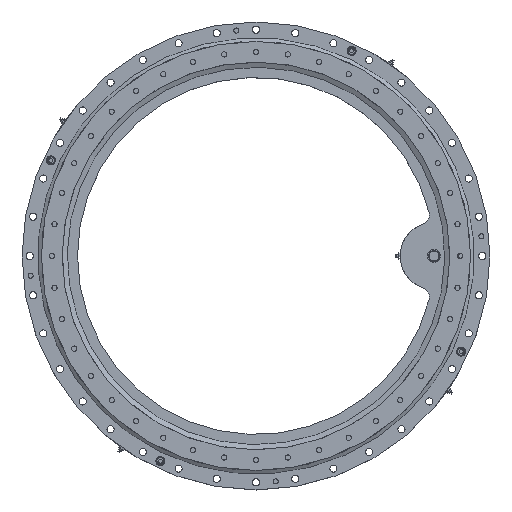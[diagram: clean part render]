
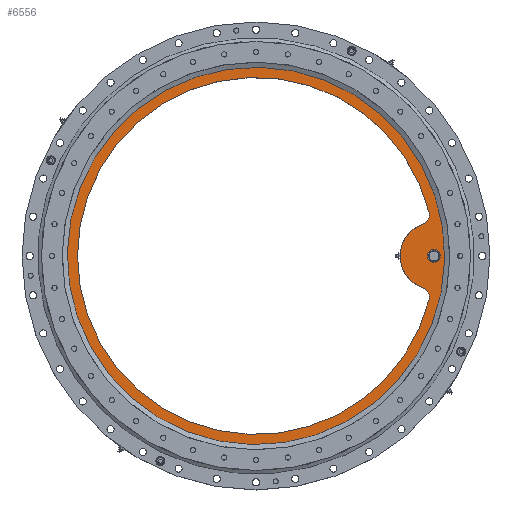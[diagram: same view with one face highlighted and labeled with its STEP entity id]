
A CAD part, top view. The second image highlights one B-rep face of the part: STEP entity #6556.
In plain terms, the highlighted planar face has unit normal (0, 0, 1).
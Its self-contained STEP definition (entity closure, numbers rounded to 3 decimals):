
#48=PLANE('',#7116);
#278=FACE_BOUND('',#955,.T.);
#279=FACE_BOUND('',#956,.T.);
#530=FACE_OUTER_BOUND('',#954,.T.);
#954=EDGE_LOOP('',(#4782));
#955=EDGE_LOOP('',(#4783));
#956=EDGE_LOOP('',(#4784,#4785,#4786,#4787));
#2360=CIRCLE('',#6946,349.);
#2364=CIRCLE('',#6951,66.);
#2472=CIRCLE('',#7110,20.);
#2475=CIRCLE('',#7115,20.);
#2476=CIRCLE('',#7117,371.);
#2477=CIRCLE('',#7118,10.5);
#2827=VERTEX_POINT('',#9797);
#2828=VERTEX_POINT('',#9798);
#2835=VERTEX_POINT('',#9813);
#2836=VERTEX_POINT('',#9815);
#2945=VERTEX_POINT('',#10324);
#2946=VERTEX_POINT('',#10326);
#3504=EDGE_CURVE('',#2827,#2828,#2360,.T.);
#3512=EDGE_CURVE('',#2835,#2836,#2364,.T.);
#3671=EDGE_CURVE('',#2827,#2836,#2472,.T.);
#3674=EDGE_CURVE('',#2835,#2828,#2475,.T.);
#3675=EDGE_CURVE('',#2945,#2945,#2476,.T.);
#3676=EDGE_CURVE('',#2946,#2946,#2477,.T.);
#4782=ORIENTED_EDGE('',*,*,#3675,.T.);
#4783=ORIENTED_EDGE('',*,*,#3676,.T.);
#4784=ORIENTED_EDGE('',*,*,#3504,.F.);
#4785=ORIENTED_EDGE('',*,*,#3671,.T.);
#4786=ORIENTED_EDGE('',*,*,#3512,.F.);
#4787=ORIENTED_EDGE('',*,*,#3674,.T.);
#6556=ADVANCED_FACE('',(#530,#278,#279),#48,.T.);
#6946=AXIS2_PLACEMENT_3D('',#9799,#7740,#7741);
#6951=AXIS2_PLACEMENT_3D('',#9816,#7754,#7755);
#7110=AXIS2_PLACEMENT_3D('',#10317,#8121,#8122);
#7115=AXIS2_PLACEMENT_3D('',#10322,#8131,#8132);
#7116=AXIS2_PLACEMENT_3D('',#10323,#8133,#8134);
#7117=AXIS2_PLACEMENT_3D('',#10325,#8135,#8136);
#7118=AXIS2_PLACEMENT_3D('',#10327,#8137,#8138);
#7740=DIRECTION('center_axis',(0.,0.,1.));
#7741=DIRECTION('ref_axis',(1.,0.,0.));
#7754=DIRECTION('center_axis',(0.,0.,-1.));
#7755=DIRECTION('ref_axis',(1.,0.,0.));
#8121=DIRECTION('center_axis',(0.,0.,-1.));
#8122=DIRECTION('ref_axis',(1.,0.,0.));
#8131=DIRECTION('center_axis',(0.,0.,-1.));
#8132=DIRECTION('ref_axis',(1.,0.,0.));
#8133=DIRECTION('center_axis',(0.,0.,1.));
#8134=DIRECTION('ref_axis',(1.,0.,0.));
#8135=DIRECTION('center_axis',(0.,0.,1.));
#8136=DIRECTION('ref_axis',(1.,0.,0.));
#8137=DIRECTION('center_axis',(0.,0.,-1.));
#8138=DIRECTION('ref_axis',(-1.,0.,0.));
#9797=CARTESIAN_POINT('',(363.711,87.521,457.578));
#9798=CARTESIAN_POINT('',(363.711,-84.167,457.578));
#9799=CARTESIAN_POINT('Origin',(25.433,1.677,457.578));
#9813=CARTESIAN_POINT('',(351.094,-60.428,457.578));
#9815=CARTESIAN_POINT('',(351.094,63.782,457.578));
#9816=CARTESIAN_POINT('Origin',(373.433,1.677,457.578));
#10317=CARTESIAN_POINT('Origin',(344.325,82.601,457.578));
#10322=CARTESIAN_POINT('Origin',(344.325,-79.247,457.578));
#10323=CARTESIAN_POINT('Origin',(25.433,1.677,457.578));
#10324=CARTESIAN_POINT('',(-345.567,1.677,457.578));
#10325=CARTESIAN_POINT('Origin',(25.433,1.677,457.578));
#10326=CARTESIAN_POINT('',(383.933,1.677,457.578));
#10327=CARTESIAN_POINT('Origin',(373.433,1.677,457.578));
